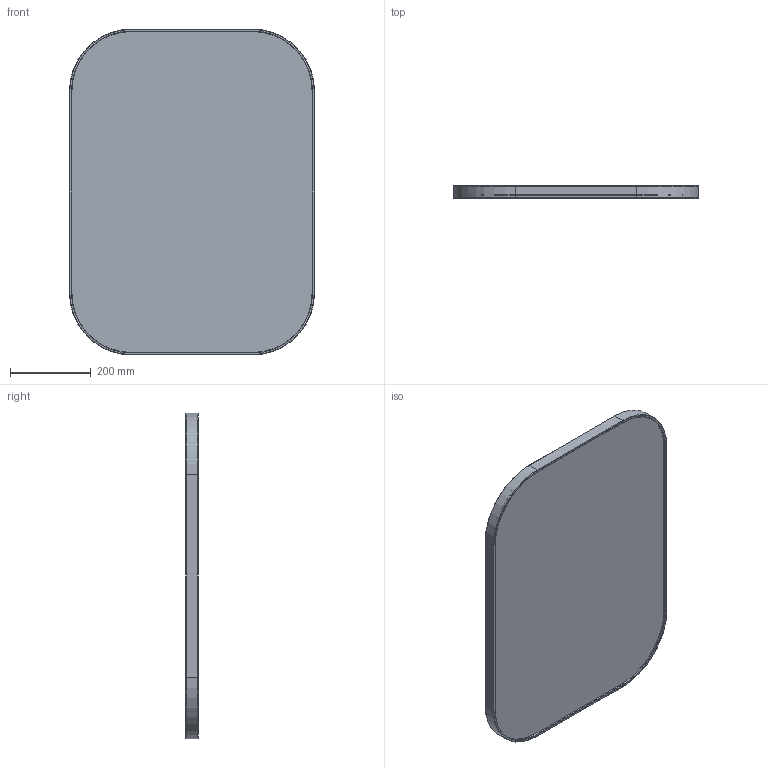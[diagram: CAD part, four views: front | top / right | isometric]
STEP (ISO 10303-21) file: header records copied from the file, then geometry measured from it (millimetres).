
FILE_DESCRIPTION(/* description */ ('Unknown'),/* implementation_level */ '2;1');
FILE_NAME(/* name */ 'Marco',/* time_stamp */ '2026-01-08T13:52:57+01:00',/* author */ ('Mariusz Kirko'),/* organization */ ('Kraft'),/* preprocessor_version */ 'ST-DEVELOPER v19.4',/* originating_system */ 'Solid Edge',/* authorisation */ 'Unknown');
FILE_SCHEMA (('AUTOMOTIVE_DESIGN {1 0 10303 214 3 1 1}'));
Length unit declared in the file: millimetre
Products named in the file (4): Z這瞠nie plus zawieszka; Rama 60x80; Lustro 60x80; 350x21
Assembly tree (3 placements, depth 2):
  Z這瞠nie plus zawieszka
    Rama 60x80
    Lustro 60x80
    350x21
Bounding box: 606 x 30 x 806 mm (x, y, z)
Volume: 2136214.5 mm3; surface area: 1169942.1 mm2
Topology: 3 solids, 3 shells, 151 faces, 392 edges, 248 vertices
Faces by surface type: plane 67, cylinder 64, torus 16, cone 4
Entity records: 4783 total; most frequent: DIRECTION 850, CARTESIAN_POINT 795, ORIENTED_EDGE 784, EDGE_CURVE 392, AXIS2_PLACEMENT_3D 303, VERTEX_POINT 248, LINE 244, VECTOR 244
